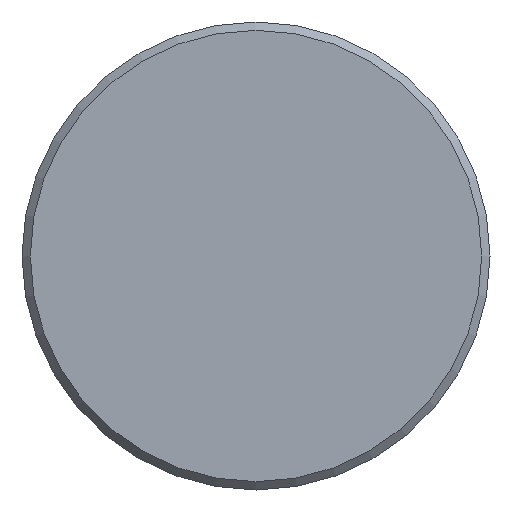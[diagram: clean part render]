
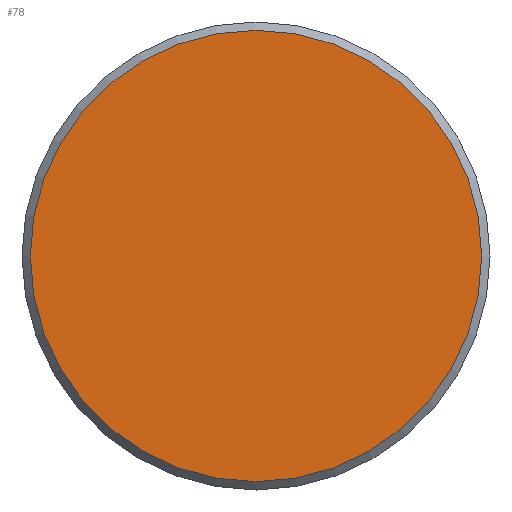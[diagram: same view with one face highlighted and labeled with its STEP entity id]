
A CAD part, front view. The second image highlights one B-rep face of the part: STEP entity #78.
In plain terms, the highlighted planar face has unit normal (0, -1, 0).
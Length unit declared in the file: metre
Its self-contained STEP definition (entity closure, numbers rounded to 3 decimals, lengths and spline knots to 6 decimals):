
#78 = ADVANCED_FACE( '', ( #107 ), #108, .T. );
#107 = FACE_OUTER_BOUND( '', #180, .T. );
#108 = PLANE( '', #181 );
#180 = EDGE_LOOP( '', ( #255 ) );
#181 = AXIS2_PLACEMENT_3D( '', #256, #257, #258 );
#255 = ORIENTED_EDGE( '', *, *, #375, .T. );
#256 = CARTESIAN_POINT( '', ( 0., 0., 0. ) );
#257 = DIRECTION( '', ( 0., -1., 0. ) );
#258 = DIRECTION( '', ( 0., 0., -1. ) );
#375 = EDGE_CURVE( '', #401, #401, #402, .T. );
#401 = VERTEX_POINT( '', #449 );
#402 = CIRCLE( '', #450, 0.0135 );
#449 = CARTESIAN_POINT( '', ( 0., 0., -0.0135 ) );
#450 = AXIS2_PLACEMENT_3D( '', #499, #500, #501 );
#499 = CARTESIAN_POINT( '', ( 0., 0., 0. ) );
#500 = DIRECTION( '', ( 0., -1., 0. ) );
#501 = DIRECTION( '', ( 0., 0., -1. ) );
